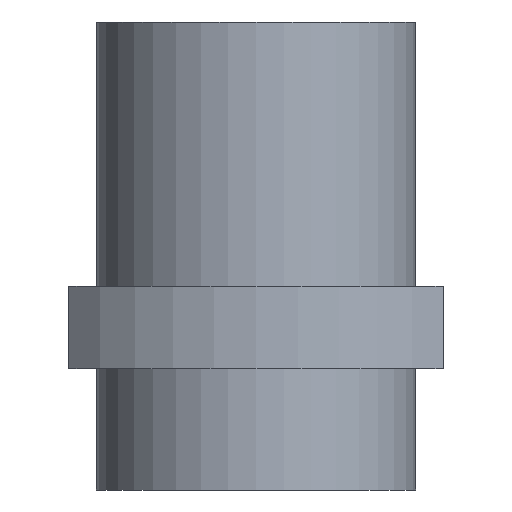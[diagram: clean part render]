
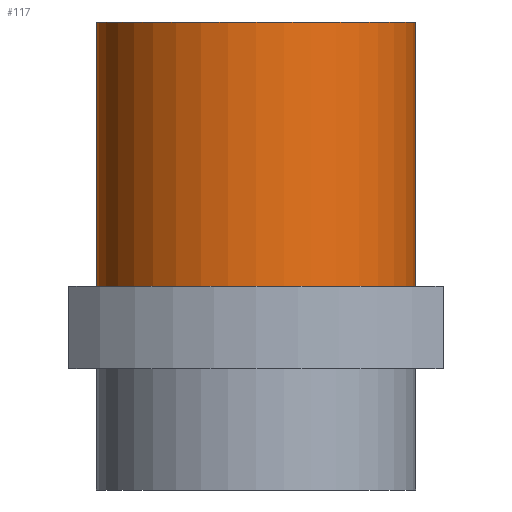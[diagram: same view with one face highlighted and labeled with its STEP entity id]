
A CAD part, front view. The second image highlights one B-rep face of the part: STEP entity #117.
In plain terms, the highlighted cylindrical face has radius 29 mm (diameter 58 mm), a full revolution.
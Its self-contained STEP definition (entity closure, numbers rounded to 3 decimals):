
#117=ADVANCED_FACE('',(#202,#203),#130,.T.);
#130=CYLINDRICAL_SURFACE('',#403,29.);
#155=CIRCLE('',#388,29.);
#159=CIRCLE('',#402,29.);
#202=FACE_BOUND('',#242,.T.);
#203=FACE_BOUND('',#243,.T.);
#242=EDGE_LOOP('',(#302));
#243=EDGE_LOOP('',(#303));
#302=ORIENTED_EDGE('',*,*,#359,.T.);
#303=ORIENTED_EDGE('',*,*,#365,.F.);
#331=VERTEX_POINT('',#556);
#335=VERTEX_POINT('',#576);
#359=EDGE_CURVE('',#331,#331,#155,.T.);
#365=EDGE_CURVE('',#335,#335,#159,.T.);
#388=AXIS2_PLACEMENT_3D('',#555,#450,#451);
#402=AXIS2_PLACEMENT_3D('',#575,#480,#481);
#403=AXIS2_PLACEMENT_3D('',#577,#482,#483);
#450=DIRECTION('',(0.,0.,1.));
#451=DIRECTION('',(1.,0.,0.));
#480=DIRECTION('',(0.,0.,1.));
#481=DIRECTION('',(1.,0.,0.));
#482=DIRECTION('',(0.,0.,-1.));
#483=DIRECTION('',(-1.,0.,0.));
#555=CARTESIAN_POINT('',(0.,0.,37.));
#556=CARTESIAN_POINT('',(29.,0.,37.));
#575=CARTESIAN_POINT('',(0.,0.,85.));
#576=CARTESIAN_POINT('',(29.,0.,85.));
#577=CARTESIAN_POINT('',(0.,0.,85.));
